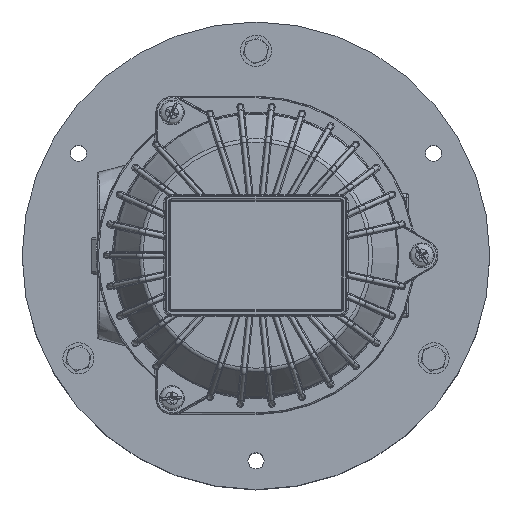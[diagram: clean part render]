
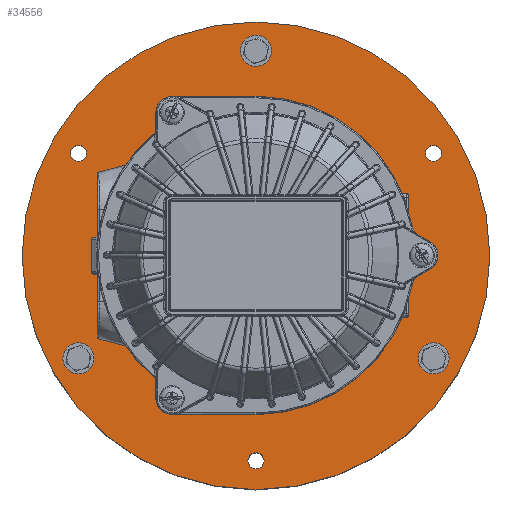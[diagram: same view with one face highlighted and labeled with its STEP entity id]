
A CAD part, top view. The second image highlights one B-rep face of the part: STEP entity #34556.
In plain terms, the highlighted planar face has unit normal (0, 0, 1).
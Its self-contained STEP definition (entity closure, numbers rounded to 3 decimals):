
#4780=FACE_BOUND('',#8357,.T.);
#4781=FACE_BOUND('',#8358,.T.);
#4782=FACE_BOUND('',#8359,.T.);
#4783=FACE_BOUND('',#8360,.T.);
#4784=FACE_BOUND('',#8361,.T.);
#4785=FACE_BOUND('',#8362,.T.);
#4786=FACE_BOUND('',#8363,.T.);
#5050=PLANE('',#36949);
#6070=FACE_OUTER_BOUND('',#8356,.T.);
#8356=EDGE_LOOP('',(#24320));
#8357=EDGE_LOOP('',(#24321));
#8358=EDGE_LOOP('',(#24322));
#8359=EDGE_LOOP('',(#24323));
#8360=EDGE_LOOP('',(#24324));
#8361=EDGE_LOOP('',(#24325));
#8362=EDGE_LOOP('',(#24326));
#8363=EDGE_LOOP('',(#24327));
#13269=CIRCLE('',#36714,6.75);
#13295=CIRCLE('',#36781,6.75);
#13363=CIRCLE('',#36942,6.75);
#13367=CIRCLE('',#36950,101.5);
#13368=CIRCLE('',#36951,3.5);
#13369=CIRCLE('',#36952,3.5);
#13370=CIRCLE('',#36953,3.5);
#13371=CIRCLE('',#36954,31.463);
#15359=VERTEX_POINT('',#49532);
#15413=VERTEX_POINT('',#49763);
#15568=VERTEX_POINT('',#50577);
#15572=VERTEX_POINT('',#50593);
#15573=VERTEX_POINT('',#50595);
#15574=VERTEX_POINT('',#50597);
#15575=VERTEX_POINT('',#50599);
#15576=VERTEX_POINT('',#50601);
#18427=EDGE_CURVE('',#15359,#15359,#13269,.T.);
#18515=EDGE_CURVE('',#15413,#15413,#13295,.T.);
#18746=EDGE_CURVE('',#15568,#15568,#13363,.T.);
#18754=EDGE_CURVE('',#15572,#15572,#13367,.T.);
#18755=EDGE_CURVE('',#15573,#15573,#13368,.T.);
#18756=EDGE_CURVE('',#15574,#15574,#13369,.T.);
#18757=EDGE_CURVE('',#15575,#15575,#13370,.T.);
#18758=EDGE_CURVE('',#15576,#15576,#13371,.T.);
#24320=ORIENTED_EDGE('',*,*,#18754,.F.);
#24321=ORIENTED_EDGE('',*,*,#18427,.T.);
#24322=ORIENTED_EDGE('',*,*,#18515,.T.);
#24323=ORIENTED_EDGE('',*,*,#18746,.T.);
#24324=ORIENTED_EDGE('',*,*,#18755,.T.);
#24325=ORIENTED_EDGE('',*,*,#18756,.T.);
#24326=ORIENTED_EDGE('',*,*,#18757,.T.);
#24327=ORIENTED_EDGE('',*,*,#18758,.F.);
#34556=ADVANCED_FACE('',(#6070,#4780,#4781,#4782,#4783,#4784,#4785,#4786),
#5050,.F.);
#36714=AXIS2_PLACEMENT_3D('',#49533,#40554,#40555);
#36781=AXIS2_PLACEMENT_3D('',#49764,#40726,#40727);
#36942=AXIS2_PLACEMENT_3D('',#50578,#41140,#41141);
#36949=AXIS2_PLACEMENT_3D('',#50592,#41158,#41159);
#36950=AXIS2_PLACEMENT_3D('',#50594,#41160,#41161);
#36951=AXIS2_PLACEMENT_3D('',#50596,#41162,#41163);
#36952=AXIS2_PLACEMENT_3D('',#50598,#41164,#41165);
#36953=AXIS2_PLACEMENT_3D('',#50600,#41166,#41167);
#36954=AXIS2_PLACEMENT_3D('',#50602,#41168,#41169);
#40554=DIRECTION('center_axis',(0.,0.,
-1.));
#40555=DIRECTION('ref_axis',(-0.951,-0.31,0.));
#40726=DIRECTION('center_axis',(0.,0.,
-1.));
#40727=DIRECTION('ref_axis',(0.207,0.978,0.));
#41140=DIRECTION('center_axis',(0.,0.,
-1.));
#41141=DIRECTION('ref_axis',(0.744,-0.669,0.));
#41158=DIRECTION('center_axis',(0.,0.,
-1.));
#41159=DIRECTION('ref_axis',(-1.,0.,0.));
#41160=DIRECTION('center_axis',(0.,0.,
-1.));
#41161=DIRECTION('ref_axis',(-1.,0.,0.));
#41162=DIRECTION('center_axis',(0.,0.,
-1.));
#41163=DIRECTION('ref_axis',(1.,0.,0.));
#41164=DIRECTION('center_axis',(0.,0.,
-1.));
#41165=DIRECTION('ref_axis',(1.,0.,0.));
#41166=DIRECTION('center_axis',(0.,0.,
-1.));
#41167=DIRECTION('ref_axis',(1.,0.,0.));
#41168=DIRECTION('center_axis',(0.,0.,
1.));
#41169=DIRECTION('ref_axis',(1.,0.,0.));
#49532=CARTESIAN_POINT('',(83.495,-42.41,-104.65));
#49533=CARTESIAN_POINT('Origin',(77.076,-44.5,-104.65));
#49763=CARTESIAN_POINT('',(-78.476,-51.103,-104.65));
#49764=CARTESIAN_POINT('Origin',(-77.076,-44.5,-104.65));
#50577=CARTESIAN_POINT('',(-5.019,93.514,-104.65));
#50578=CARTESIAN_POINT('Origin',(0.,89.,-104.65));
#50592=CARTESIAN_POINT('Origin',(0.,0.,-104.65));
#50593=CARTESIAN_POINT('',(101.5,0.,-104.65));
#50594=CARTESIAN_POINT('Origin',(0.,0.,-104.65));
#50595=CARTESIAN_POINT('',(-80.576,44.5,-104.65));
#50596=CARTESIAN_POINT('Origin',(-77.076,44.5,-104.65));
#50597=CARTESIAN_POINT('',(-3.5,-89.,-104.65));
#50598=CARTESIAN_POINT('Origin',(0.,-89.,-104.65));
#50599=CARTESIAN_POINT('',(73.576,44.5,-104.65));
#50600=CARTESIAN_POINT('Origin',(77.076,44.5,-104.65));
#50601=CARTESIAN_POINT('',(-31.463,0.,-104.65));
#50602=CARTESIAN_POINT('Origin',(0.,0.,-104.65));
